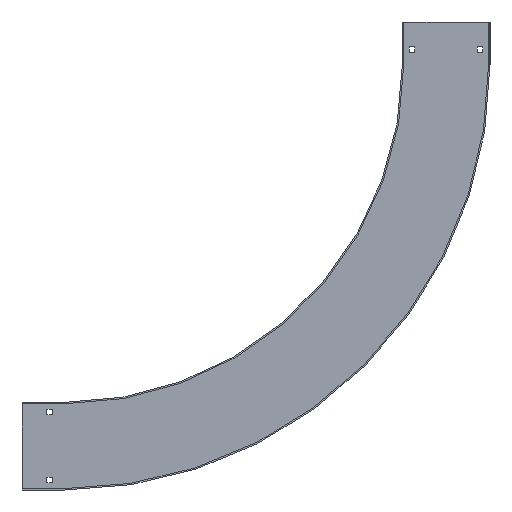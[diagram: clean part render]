
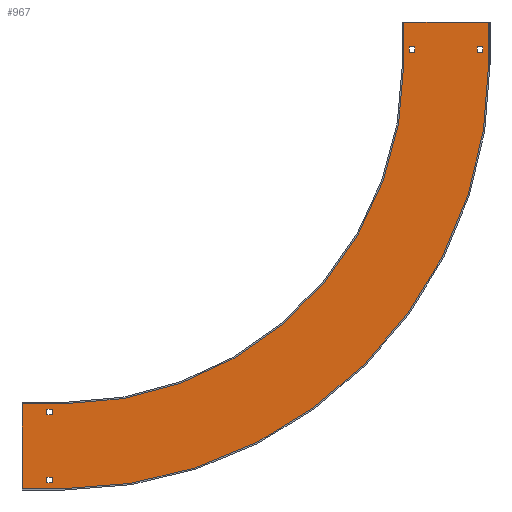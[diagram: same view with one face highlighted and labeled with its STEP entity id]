
A CAD part, left-side view. The second image highlights one B-rep face of the part: STEP entity #967.
In plain terms, the highlighted planar face has unit normal (-1, 0, 0) as drawn and (1, 0, 0) by its records, which use the part's own axes.
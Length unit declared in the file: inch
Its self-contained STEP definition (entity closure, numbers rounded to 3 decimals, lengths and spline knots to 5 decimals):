
#9=DIRECTION('',(0.,1.,0.));
#10=VECTOR('',#9,6.02);
#11=CARTESIAN_POINT('',(0.1,0.1,0.));
#12=LINE('',#11,#10);
#194=DIRECTION('',(0.,0.,1.));
#195=VECTOR('',#194,3.);
#196=CARTESIAN_POINT('',(0.1,6.12,0.));
#197=LINE('',#196,#195);
#198=DIRECTION('',(0.,0.,1.));
#199=VECTOR('',#198,3.);
#200=CARTESIAN_POINT('',(0.1,0.1,0.));
#201=LINE('',#200,#199);
#202=CARTESIAN_POINT('',(0.1,-24.,3.));
#203=DIRECTION('',(1.,0.,0.));
#204=DIRECTION('',(0.,1.,0.));
#205=AXIS2_PLACEMENT_3D('',#202,#203,#204);
#207=DIRECTION('',(0.,-1.,0.));
#208=VECTOR('',#207,3.);
#209=CARTESIAN_POINT('',(0.1,-24.,27.1));
#210=LINE('',#209,#208);
#211=DIRECTION('',(0.,1.,0.));
#212=VECTOR('',#211,0.41);
#213=CARTESIAN_POINT('',(0.1,0.477,1.755));
#214=LINE('',#213,#212);
#215=DIRECTION('',(0.,0.,1.));
#216=VECTOR('',#215,0.41);
#217=CARTESIAN_POINT('',(0.1,0.887,1.755));
#218=LINE('',#217,#216);
#219=DIRECTION('',(0.,-1.,0.));
#220=VECTOR('',#219,0.41);
#221=CARTESIAN_POINT('',(0.1,0.887,2.165));
#222=LINE('',#221,#220);
#223=DIRECTION('',(0.,0.,-1.));
#224=VECTOR('',#223,0.41);
#225=CARTESIAN_POINT('',(0.1,0.477,2.165));
#226=LINE('',#225,#224);
#227=DIRECTION('',(0.,1.,0.));
#228=VECTOR('',#227,0.41);
#229=CARTESIAN_POINT('',(0.1,5.312,1.755));
#230=LINE('',#229,#228);
#231=DIRECTION('',(0.,0.,1.));
#232=VECTOR('',#231,0.41);
#233=CARTESIAN_POINT('',(0.1,5.722,1.755));
#234=LINE('',#233,#232);
#235=DIRECTION('',(0.,-1.,0.));
#236=VECTOR('',#235,0.41);
#237=CARTESIAN_POINT('',(0.1,5.722,2.165));
#238=LINE('',#237,#236);
#239=DIRECTION('',(0.,0.,-1.));
#240=VECTOR('',#239,0.41);
#241=CARTESIAN_POINT('',(0.1,5.312,2.165));
#242=LINE('',#241,#240);
#243=DIRECTION('',(0.,1.,0.));
#244=VECTOR('',#243,0.41);
#245=CARTESIAN_POINT('',(0.1,-25.245,27.477));
#246=LINE('',#245,#244);
#247=DIRECTION('',(0.,0.,1.));
#248=VECTOR('',#247,0.41);
#249=CARTESIAN_POINT('',(0.1,-24.835,27.477));
#250=LINE('',#249,#248);
#251=DIRECTION('',(0.,-1.,0.));
#252=VECTOR('',#251,0.41);
#253=CARTESIAN_POINT('',(0.1,-24.835,27.887));
#254=LINE('',#253,#252);
#255=DIRECTION('',(0.,0.,-1.));
#256=VECTOR('',#255,0.41);
#257=CARTESIAN_POINT('',(0.1,-25.245,27.887));
#258=LINE('',#257,#256);
#259=DIRECTION('',(0.,1.,0.));
#260=VECTOR('',#259,0.41);
#261=CARTESIAN_POINT('',(0.1,-25.245,32.312));
#262=LINE('',#261,#260);
#263=DIRECTION('',(0.,0.,1.));
#264=VECTOR('',#263,0.41);
#265=CARTESIAN_POINT('',(0.1,-24.835,32.312));
#266=LINE('',#265,#264);
#267=DIRECTION('',(0.,-1.,0.));
#268=VECTOR('',#267,0.41);
#269=CARTESIAN_POINT('',(0.1,-24.835,32.722));
#270=LINE('',#269,#268);
#271=DIRECTION('',(0.,0.,-1.));
#272=VECTOR('',#271,0.41);
#273=CARTESIAN_POINT('',(0.1,-25.245,32.722));
#274=LINE('',#273,#272);
#336=DIRECTION('',(0.,0.,1.));
#337=VECTOR('',#336,6.02);
#338=CARTESIAN_POINT('',(0.1,-27.,27.1));
#339=LINE('',#338,#337);
#416=DIRECTION('',(0.,-1.,0.));
#417=VECTOR('',#416,3.);
#418=CARTESIAN_POINT('',(0.1,-24.,33.12));
#419=LINE('',#418,#417);
#424=CARTESIAN_POINT('',(0.1,-24.,3.));
#425=DIRECTION('',(1.,0.,0.));
#426=DIRECTION('',(0.,1.,0.));
#427=AXIS2_PLACEMENT_3D('',#424,#425,#426);
#497=CARTESIAN_POINT('',(0.1,0.1,0.));
#498=VERTEX_POINT('',#497);
#499=CARTESIAN_POINT('',(0.1,6.12,0.));
#500=VERTEX_POINT('',#499);
#518=CARTESIAN_POINT('',(0.1,0.1,3.));
#520=VERTEX_POINT('',#518);
#521=CARTESIAN_POINT('',(0.1,6.12,3.));
#523=VERTEX_POINT('',#521);
#542=CARTESIAN_POINT('',(0.1,-24.,27.1));
#544=VERTEX_POINT('',#542);
#545=CARTESIAN_POINT('',(0.1,-24.,33.12));
#547=VERTEX_POINT('',#545);
#569=CARTESIAN_POINT('',(0.1,-27.,27.1));
#570=VERTEX_POINT('',#569);
#571=CARTESIAN_POINT('',(0.1,-27.,33.12));
#572=VERTEX_POINT('',#571);
#589=CARTESIAN_POINT('',(0.1,0.477,1.755));
#590=CARTESIAN_POINT('',(0.1,0.887,1.755));
#591=VERTEX_POINT('',#589);
#592=VERTEX_POINT('',#590);
#593=CARTESIAN_POINT('',(0.1,0.887,2.165));
#594=VERTEX_POINT('',#593);
#595=CARTESIAN_POINT('',(0.1,0.477,2.165));
#596=VERTEX_POINT('',#595);
#597=CARTESIAN_POINT('',(0.1,5.312,1.755));
#598=CARTESIAN_POINT('',(0.1,5.722,1.755));
#599=VERTEX_POINT('',#597);
#600=VERTEX_POINT('',#598);
#601=CARTESIAN_POINT('',(0.1,5.722,2.165));
#602=VERTEX_POINT('',#601);
#603=CARTESIAN_POINT('',(0.1,5.312,2.165));
#604=VERTEX_POINT('',#603);
#621=CARTESIAN_POINT('',(0.1,-25.245,27.477));
#622=CARTESIAN_POINT('',(0.1,-24.835,27.477));
#623=VERTEX_POINT('',#621);
#624=VERTEX_POINT('',#622);
#625=CARTESIAN_POINT('',(0.1,-24.835,27.887));
#626=VERTEX_POINT('',#625);
#627=CARTESIAN_POINT('',(0.1,-25.245,27.887));
#628=VERTEX_POINT('',#627);
#629=CARTESIAN_POINT('',(0.1,-25.245,32.312));
#630=CARTESIAN_POINT('',(0.1,-24.835,32.312));
#631=VERTEX_POINT('',#629);
#632=VERTEX_POINT('',#630);
#633=CARTESIAN_POINT('',(0.1,-24.835,32.722));
#634=VERTEX_POINT('',#633);
#635=CARTESIAN_POINT('',(0.1,-25.245,32.722));
#636=VERTEX_POINT('',#635);
#906=CARTESIAN_POINT('',(0.1,0.1,0.));
#907=DIRECTION('',(1.,0.,0.));
#908=DIRECTION('',(0.,1.,0.));
#909=AXIS2_PLACEMENT_3D('',#906,#907,#908);
#910=PLANE('',#909);
#911=ORIENTED_EDGE('',*,*,#662,.F.);
#913=ORIENTED_EDGE('',*,*,#912,.T.);
#915=ORIENTED_EDGE('',*,*,#914,.T.);
#917=ORIENTED_EDGE('',*,*,#916,.T.);
#919=ORIENTED_EDGE('',*,*,#918,.T.);
#921=ORIENTED_EDGE('',*,*,#920,.F.);
#923=ORIENTED_EDGE('',*,*,#922,.F.);
#924=ORIENTED_EDGE('',*,*,#898,.F.);
#925=EDGE_LOOP('',(#911,#913,#915,#917,#919,#921,#923,#924));
#926=FACE_OUTER_BOUND('',#925,.F.);
#928=ORIENTED_EDGE('',*,*,#927,.T.);
#930=ORIENTED_EDGE('',*,*,#929,.T.);
#932=ORIENTED_EDGE('',*,*,#931,.T.);
#934=ORIENTED_EDGE('',*,*,#933,.T.);
#935=EDGE_LOOP('',(#928,#930,#932,#934));
#936=FACE_BOUND('',#935,.F.);
#938=ORIENTED_EDGE('',*,*,#937,.T.);
#940=ORIENTED_EDGE('',*,*,#939,.T.);
#942=ORIENTED_EDGE('',*,*,#941,.T.);
#944=ORIENTED_EDGE('',*,*,#943,.T.);
#945=EDGE_LOOP('',(#938,#940,#942,#944));
#946=FACE_BOUND('',#945,.F.);
#948=ORIENTED_EDGE('',*,*,#947,.T.);
#950=ORIENTED_EDGE('',*,*,#949,.T.);
#952=ORIENTED_EDGE('',*,*,#951,.T.);
#954=ORIENTED_EDGE('',*,*,#953,.T.);
#955=EDGE_LOOP('',(#948,#950,#952,#954));
#956=FACE_BOUND('',#955,.F.);
#958=ORIENTED_EDGE('',*,*,#957,.T.);
#960=ORIENTED_EDGE('',*,*,#959,.T.);
#962=ORIENTED_EDGE('',*,*,#961,.T.);
#964=ORIENTED_EDGE('',*,*,#963,.T.);
#965=EDGE_LOOP('',(#958,#960,#962,#964));
#966=FACE_BOUND('',#965,.F.);
#967=ADVANCED_FACE('',(#926,#936,#946,#956,#966),#910,.T.);
#206=CIRCLE('',#205,24.1);
#428=CIRCLE('',#427,30.12);
#662=EDGE_CURVE('',#498,#500,#12,.T.);
#898=EDGE_CURVE('',#500,#523,#197,.T.);
#912=EDGE_CURVE('',#498,#520,#201,.T.);
#914=EDGE_CURVE('',#520,#544,#206,.T.);
#916=EDGE_CURVE('',#544,#570,#210,.T.);
#918=EDGE_CURVE('',#570,#572,#339,.T.);
#920=EDGE_CURVE('',#547,#572,#419,.T.);
#922=EDGE_CURVE('',#523,#547,#428,.T.);
#927=EDGE_CURVE('',#591,#592,#214,.T.);
#929=EDGE_CURVE('',#592,#594,#218,.T.);
#931=EDGE_CURVE('',#594,#596,#222,.T.);
#933=EDGE_CURVE('',#596,#591,#226,.T.);
#937=EDGE_CURVE('',#599,#600,#230,.T.);
#939=EDGE_CURVE('',#600,#602,#234,.T.);
#941=EDGE_CURVE('',#602,#604,#238,.T.);
#943=EDGE_CURVE('',#604,#599,#242,.T.);
#947=EDGE_CURVE('',#623,#624,#246,.T.);
#949=EDGE_CURVE('',#624,#626,#250,.T.);
#951=EDGE_CURVE('',#626,#628,#254,.T.);
#953=EDGE_CURVE('',#628,#623,#258,.T.);
#957=EDGE_CURVE('',#631,#632,#262,.T.);
#959=EDGE_CURVE('',#632,#634,#266,.T.);
#961=EDGE_CURVE('',#634,#636,#270,.T.);
#963=EDGE_CURVE('',#636,#631,#274,.T.);
